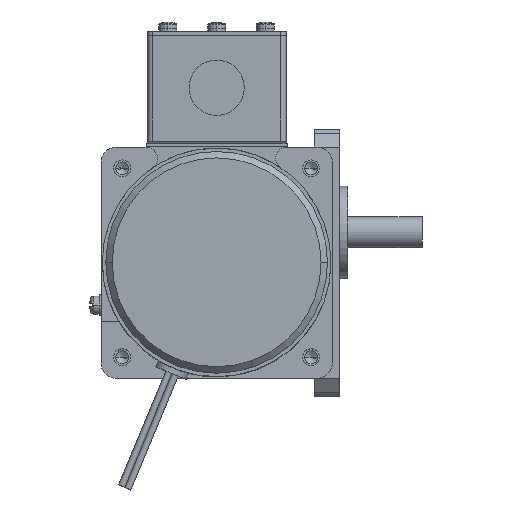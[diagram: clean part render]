
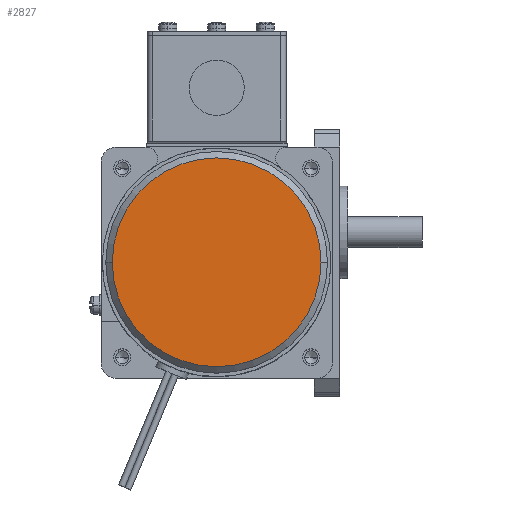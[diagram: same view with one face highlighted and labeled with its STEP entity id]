
A CAD part, top view. The second image highlights one B-rep face of the part: STEP entity #2827.
In plain terms, the highlighted planar face has unit normal (0, 0, 1).
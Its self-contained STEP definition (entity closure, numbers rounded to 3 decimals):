
#184 = EDGE_CURVE ( 'NONE', #5861, #6565, #249, .T. ) ;
#249 = CIRCLE ( 'NONE', #2725, 40.65 ) ;
#454 = ORIENTED_EDGE ( 'NONE', *, *, #184, .F. ) ;
#1141 = CARTESIAN_POINT ( 'NONE',  ( 40.65, 0., 105. ) ) ;
#1556 = DIRECTION ( 'NONE',  ( -1., 0., 0. ) ) ;
#2085 = DIRECTION ( 'NONE',  ( 0., 0., -1. ) ) ;
#2173 = FACE_OUTER_BOUND ( 'NONE', #6977, .T. ) ;
#2375 = AXIS2_PLACEMENT_3D ( 'NONE', #2830, #2085, #1556 ) ;
#2636 = PLANE ( 'NONE',  #6461 ) ;
#2725 = AXIS2_PLACEMENT_3D ( 'NONE', #6475, #7815, #4034 ) ;
#2827 = ADVANCED_FACE ( 'NONE', ( #2173 ), #2636, .T. ) ;
#2830 = CARTESIAN_POINT ( 'NONE',  ( 0., 0., 105. ) ) ;
#3281 = CARTESIAN_POINT ( 'NONE',  ( -40.65, 0., 105. ) ) ;
#3417 = CARTESIAN_POINT ( 'NONE',  ( 0., 40.65, 105. ) ) ;
#4034 = DIRECTION ( 'NONE',  ( -1., 0., 0. ) ) ;
#5278 = EDGE_CURVE ( 'NONE', #6565, #5861, #6306, .T. ) ;
#5858 = DIRECTION ( 'NONE',  ( 1., 0., 0. ) ) ;
#5861 = VERTEX_POINT ( 'NONE', #1141 ) ;
#6306 = CIRCLE ( 'NONE', #2375, 40.65 ) ;
#6461 = AXIS2_PLACEMENT_3D ( 'NONE', #3417, #7620, #5858 ) ;
#6475 = CARTESIAN_POINT ( 'NONE',  ( 0., 0., 105. ) ) ;
#6565 = VERTEX_POINT ( 'NONE', #3281 ) ;
#6977 = EDGE_LOOP ( 'NONE', ( #7266, #454 ) ) ;
#7266 = ORIENTED_EDGE ( 'NONE', *, *, #5278, .F. ) ;
#7620 = DIRECTION ( 'NONE',  ( 0., 0., 1. ) ) ;
#7815 = DIRECTION ( 'NONE',  ( 0., 0., -1. ) ) ;
